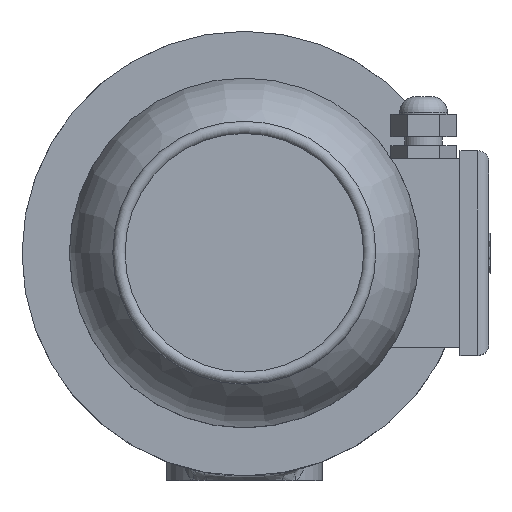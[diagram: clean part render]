
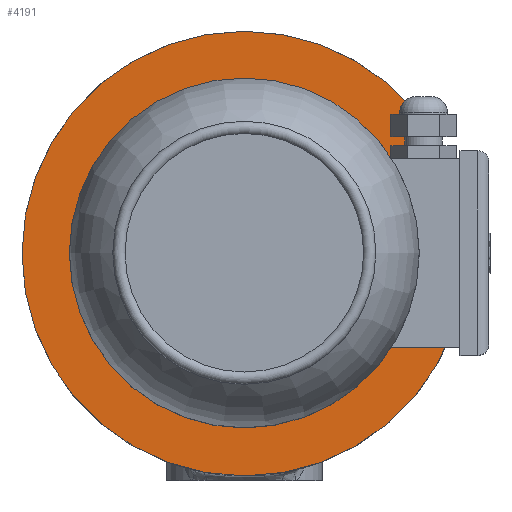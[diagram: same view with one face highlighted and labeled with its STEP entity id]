
A CAD part, top view. The second image highlights one B-rep face of the part: STEP entity #4191.
In plain terms, the highlighted planar face has unit normal (0, 0, 1).
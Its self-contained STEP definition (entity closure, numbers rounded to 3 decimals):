
#142=PLANE('',#4579);
#1271=ORIENTED_EDGE('',*,*,#2436,.F.);
#1272=ORIENTED_EDGE('',*,*,#2437,.T.);
#2436=EDGE_CURVE('',#3024,#3024,#3287,.T.);
#2437=EDGE_CURVE('',#3025,#3025,#3288,.T.);
#3024=VERTEX_POINT('',#7296);
#3025=VERTEX_POINT('',#7299);
#3287=CIRCLE('',#4578,100.);
#3288=CIRCLE('',#4580,65.993);
#3456=EDGE_LOOP('',(#1271));
#3457=EDGE_LOOP('',(#1272));
#3817=FACE_BOUND('',#3456,.T.);
#3818=FACE_BOUND('',#3457,.T.);
#4191=ADVANCED_FACE('',(#3817,#3818),#142,.T.);
#4578=AXIS2_PLACEMENT_3D('',#7295,#5157,#5158);
#4579=AXIS2_PLACEMENT_3D('',#7297,#5159,#5160);
#4580=AXIS2_PLACEMENT_3D('',#7298,#5161,#5162);
#5157=DIRECTION('',(0.,0.,-1.));
#5158=DIRECTION('',(-1.,0.,0.));
#5159=DIRECTION('',(0.,0.,1.));
#5160=DIRECTION('',(1.,0.,0.));
#5161=DIRECTION('',(0.,0.,-1.));
#5162=DIRECTION('',(-1.,0.,0.));
#7295=CARTESIAN_POINT('',(0.,0.,482.56));
#7296=CARTESIAN_POINT('',(-100.,0.,482.56));
#7297=CARTESIAN_POINT('',(-65.993,0.,482.56));
#7298=CARTESIAN_POINT('',(0.,0.,482.56));
#7299=CARTESIAN_POINT('',(-65.993,0.,482.56));
